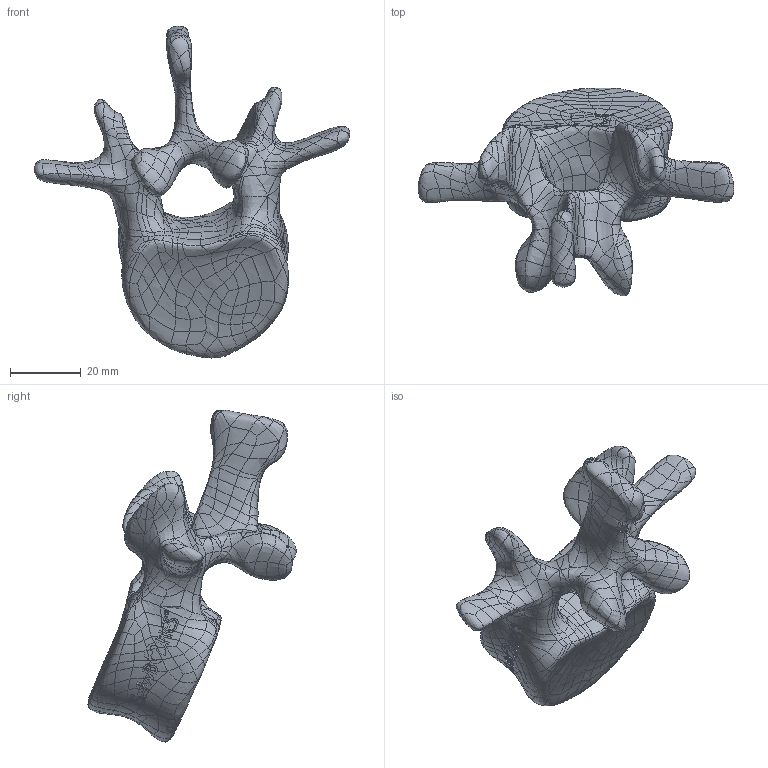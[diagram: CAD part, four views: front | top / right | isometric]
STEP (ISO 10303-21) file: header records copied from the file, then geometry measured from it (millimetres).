
FILE_DESCRIPTION (( 'STEP AP203' ), '1' );
FILE_NAME ('1375-50-1.STEP', '2026-08-04T15:37:57', ( '' ), ( '' ), 'SwSTEP 2.0', 'SolidWorks 2024', '' );
FILE_SCHEMA (( 'CONFIG_CONTROL_DESIGN' ));
Products named in the file (1): 1375-50-1
Bounding box: 89.42 x 58.94 x 94.03 mm (x, y, z)
Volume: 55529.4 mm3; surface area: 13785.3 mm2
Topology: 1 solids, 1 shells, 1651 faces, 3487 edges, 1840 vertices
Faces by surface type: bspline 1649, plane 2
Entity records: 372046 total; most frequent: CARTESIAN_POINT 349556, ORIENTED_EDGE 6974, EDGE_CURVE 3487, B_SPLINE_CURVE_WITH_KNOTS 3487, VERTEX_POINT 1840, EDGE_LOOP 1655, ADVANCED_FACE 1651, FACE_OUTER_BOUND 1651
